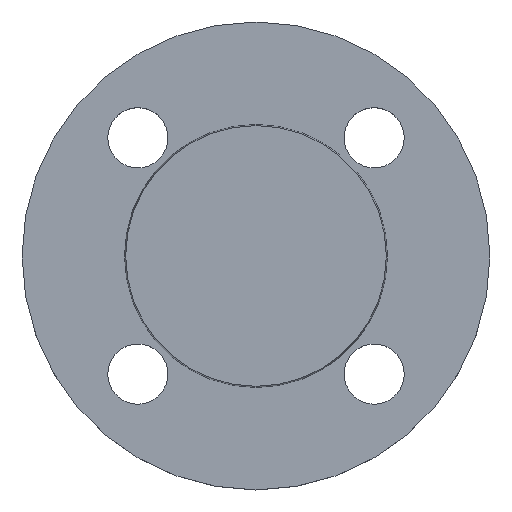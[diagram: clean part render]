
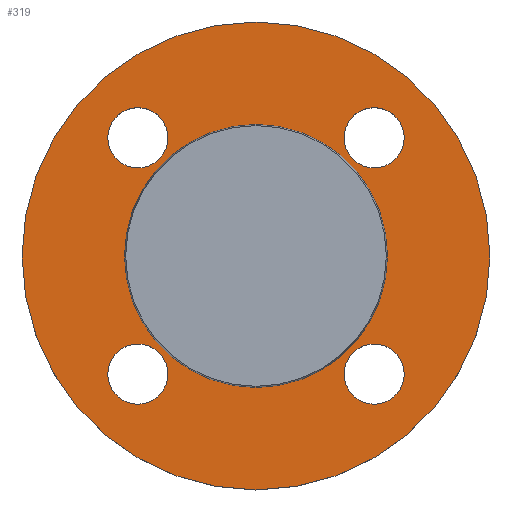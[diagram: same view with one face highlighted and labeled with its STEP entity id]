
A CAD part, top view. The second image highlights one B-rep face of the part: STEP entity #319.
In plain terms, the highlighted planar face has unit normal (0, 0, 1).
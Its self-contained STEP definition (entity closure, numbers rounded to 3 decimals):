
#5 = ORIENTED_EDGE ( 'NONE', *, *, #221, .T. ) ;
#11 = CARTESIAN_POINT ( 'NONE',  ( 39.353, 0., -2. ) ) ;
#17 = FACE_BOUND ( 'NONE', #58, .T. ) ;
#23 = CARTESIAN_POINT ( 'NONE',  ( -35.355, 35.355, -2. ) ) ;
#24 = CARTESIAN_POINT ( 'NONE',  ( 70., 0., -2. ) ) ;
#28 = EDGE_CURVE ( 'NONE', #180, #740, #687, .T. ) ;
#35 = AXIS2_PLACEMENT_3D ( 'NONE', #439, #678, #156 ) ;
#37 = ORIENTED_EDGE ( 'NONE', *, *, #698, .T. ) ;
#42 = CIRCLE ( 'NONE', #407, 9. ) ;
#43 = ORIENTED_EDGE ( 'NONE', *, *, #217, .T. ) ;
#49 = CARTESIAN_POINT ( 'NONE',  ( 0., 0., -2. ) ) ;
#50 = VERTEX_POINT ( 'NONE', #701 ) ;
#51 = AXIS2_PLACEMENT_3D ( 'NONE', #562, #744, #224 ) ;
#56 = EDGE_LOOP ( 'NONE', ( #559, #750 ) ) ;
#58 = EDGE_LOOP ( 'NONE', ( #642, #37 ) ) ;
#62 = AXIS2_PLACEMENT_3D ( 'NONE', #174, #397, #636 ) ;
#65 = CARTESIAN_POINT ( 'NONE',  ( 0., 0., -2. ) ) ;
#66 = CIRCLE ( 'NONE', #493, 70. ) ;
#70 = FACE_BOUND ( 'NONE', #109, .T. ) ;
#78 = DIRECTION ( 'NONE',  ( 0., 0., -1. ) ) ;
#85 = DIRECTION ( 'NONE',  ( 0., 0., -1. ) ) ;
#107 = CARTESIAN_POINT ( 'NONE',  ( -35.355, 35.355, -2. ) ) ;
#109 = EDGE_LOOP ( 'NONE', ( #418, #43 ) ) ;
#112 = EDGE_CURVE ( 'NONE', #635, #335, #66, .T. ) ;
#146 = DIRECTION ( 'NONE',  ( 0., 0., -1. ) ) ;
#155 = CIRCLE ( 'NONE', #567, 9. ) ;
#156 = DIRECTION ( 'NONE',  ( -1., 0., 0. ) ) ;
#157 = CIRCLE ( 'NONE', #262, 9. ) ;
#174 = CARTESIAN_POINT ( 'NONE',  ( 35.355, 35.355, -2. ) ) ;
#180 = VERTEX_POINT ( 'NONE', #645 ) ;
#188 = ORIENTED_EDGE ( 'NONE', *, *, #685, .T. ) ;
#191 = CARTESIAN_POINT ( 'NONE',  ( -35.355, -35.355, -2. ) ) ;
#192 = DIRECTION ( 'NONE',  ( 0., 0., -1. ) ) ;
#197 = DIRECTION ( 'NONE',  ( 0., 0., 1. ) ) ;
#217 = EDGE_CURVE ( 'NONE', #50, #296, #155, .T. ) ;
#220 = DIRECTION ( 'NONE',  ( 1., 0., 0. ) ) ;
#221 = EDGE_CURVE ( 'NONE', #715, #576, #257, .T. ) ;
#224 = DIRECTION ( 'NONE',  ( 1., 0., 0. ) ) ;
#225 = VERTEX_POINT ( 'NONE', #604 ) ;
#226 = CARTESIAN_POINT ( 'NONE',  ( -26.355, 35.355, -2. ) ) ;
#241 = VERTEX_POINT ( 'NONE', #486 ) ;
#244 = CARTESIAN_POINT ( 'NONE',  ( -26.355, -35.355, -2. ) ) ;
#249 = FACE_OUTER_BOUND ( 'NONE', #336, .T. ) ;
#254 = DIRECTION ( 'NONE',  ( 0., 0., -1. ) ) ;
#257 = CIRCLE ( 'NONE', #679, 9. ) ;
#262 = AXIS2_PLACEMENT_3D ( 'NONE', #107, #332, #565 ) ;
#278 = ORIENTED_EDGE ( 'NONE', *, *, #676, .T. ) ;
#279 = DIRECTION ( 'NONE',  ( 0., 0., -1. ) ) ;
#281 = VERTEX_POINT ( 'NONE', #11 ) ;
#295 = DIRECTION ( 'NONE',  ( 0., 0., -1. ) ) ;
#296 = VERTEX_POINT ( 'NONE', #244 ) ;
#298 = FACE_BOUND ( 'NONE', #525, .T. ) ;
#305 = DIRECTION ( 'NONE',  ( 1., 0., 0. ) ) ;
#312 = DIRECTION ( 'NONE',  ( 1., 0., 0. ) ) ;
#317 = EDGE_CURVE ( 'NONE', #519, #281, #739, .T. ) ;
#319 = ADVANCED_FACE ( 'NONE', ( #590, #70, #298, #534, #17, #249 ), #477, .T. ) ;
#331 = CIRCLE ( 'NONE', #437, 9. ) ;
#332 = DIRECTION ( 'NONE',  ( 0., 0., -1. ) ) ;
#335 = VERTEX_POINT ( 'NONE', #24 ) ;
#336 = EDGE_LOOP ( 'NONE', ( #457, #707 ) ) ;
#339 = AXIS2_PLACEMENT_3D ( 'NONE', #49, #279, #510 ) ;
#362 = EDGE_CURVE ( 'NONE', #296, #50, #42, .T. ) ;
#368 = DIRECTION ( 'NONE',  ( 1., 0., 0. ) ) ;
#378 = CIRCLE ( 'NONE', #51, 9. ) ;
#397 = DIRECTION ( 'NONE',  ( 0., 0., -1. ) ) ;
#398 = AXIS2_PLACEMENT_3D ( 'NONE', #713, #192, #415 ) ;
#407 = AXIS2_PLACEMENT_3D ( 'NONE', #605, #85, #312 ) ;
#415 = DIRECTION ( 'NONE',  ( -1., 0., 0. ) ) ;
#418 = ORIENTED_EDGE ( 'NONE', *, *, #362, .T. ) ;
#420 = DIRECTION ( 'NONE',  ( 1., 0., 0. ) ) ;
#425 = CIRCLE ( 'NONE', #513, 9. ) ;
#435 = EDGE_CURVE ( 'NONE', #740, #180, #331, .T. ) ;
#437 = AXIS2_PLACEMENT_3D ( 'NONE', #668, #146, #368 ) ;
#439 = CARTESIAN_POINT ( 'NONE',  ( 0., 0., -2. ) ) ;
#457 = ORIENTED_EDGE ( 'NONE', *, *, #622, .F. ) ;
#460 = ORIENTED_EDGE ( 'NONE', *, *, #657, .T. ) ;
#477 = PLANE ( 'NONE',  #500 ) ;
#481 = DIRECTION ( 'NONE',  ( 1., 0., 0. ) ) ;
#486 = CARTESIAN_POINT ( 'NONE',  ( 44.355, -35.355, -2. ) ) ;
#493 = AXIS2_PLACEMENT_3D ( 'NONE', #65, #295, #531 ) ;
#500 = AXIS2_PLACEMENT_3D ( 'NONE', #718, #197, #420 ) ;
#502 = CARTESIAN_POINT ( 'NONE',  ( 35.355, -35.355, -2. ) ) ;
#510 = DIRECTION ( 'NONE',  ( -1., 0., 0. ) ) ;
#513 = AXIS2_PLACEMENT_3D ( 'NONE', #502, #742, #220 ) ;
#519 = VERTEX_POINT ( 'NONE', #711 ) ;
#525 = EDGE_LOOP ( 'NONE', ( #5, #188 ) ) ;
#531 = DIRECTION ( 'NONE',  ( -1., 0., 0. ) ) ;
#534 = FACE_BOUND ( 'NONE', #56, .T. ) ;
#559 = ORIENTED_EDGE ( 'NONE', *, *, #435, .T. ) ;
#562 = CARTESIAN_POINT ( 'NONE',  ( 35.355, -35.355, -2. ) ) ;
#565 = DIRECTION ( 'NONE',  ( 1., 0., 0. ) ) ;
#566 = EDGE_LOOP ( 'NONE', ( #278, #460 ) ) ;
#567 = AXIS2_PLACEMENT_3D ( 'NONE', #191, #78, #305 ) ;
#568 = CARTESIAN_POINT ( 'NONE',  ( 44.355, 35.355, -2. ) ) ;
#576 = VERTEX_POINT ( 'NONE', #596 ) ;
#590 = FACE_BOUND ( 'NONE', #566, .T. ) ;
#596 = CARTESIAN_POINT ( 'NONE',  ( -44.355, 35.355, -2. ) ) ;
#604 = CARTESIAN_POINT ( 'NONE',  ( 26.355, -35.355, -2. ) ) ;
#605 = CARTESIAN_POINT ( 'NONE',  ( -35.355, -35.355, -2. ) ) ;
#622 = EDGE_CURVE ( 'NONE', #335, #635, #691, .T. ) ;
#635 = VERTEX_POINT ( 'NONE', #682 ) ;
#636 = DIRECTION ( 'NONE',  ( 1., 0., 0. ) ) ;
#642 = ORIENTED_EDGE ( 'NONE', *, *, #317, .T. ) ;
#645 = CARTESIAN_POINT ( 'NONE',  ( 26.355, 35.355, -2. ) ) ;
#657 = EDGE_CURVE ( 'NONE', #225, #241, #425, .T. ) ;
#668 = CARTESIAN_POINT ( 'NONE',  ( 35.355, 35.355, -2. ) ) ;
#676 = EDGE_CURVE ( 'NONE', #241, #225, #378, .T. ) ;
#678 = DIRECTION ( 'NONE',  ( 0., 0., -1. ) ) ;
#679 = AXIS2_PLACEMENT_3D ( 'NONE', #23, #254, #481 ) ;
#681 = CIRCLE ( 'NONE', #339, 39.353 ) ;
#682 = CARTESIAN_POINT ( 'NONE',  ( -70., 0., -2. ) ) ;
#685 = EDGE_CURVE ( 'NONE', #576, #715, #157, .T. ) ;
#687 = CIRCLE ( 'NONE', #62, 9. ) ;
#691 = CIRCLE ( 'NONE', #35, 70. ) ;
#698 = EDGE_CURVE ( 'NONE', #281, #519, #681, .T. ) ;
#701 = CARTESIAN_POINT ( 'NONE',  ( -44.355, -35.355, -2. ) ) ;
#707 = ORIENTED_EDGE ( 'NONE', *, *, #112, .F. ) ;
#711 = CARTESIAN_POINT ( 'NONE',  ( -39.353, 0., -2. ) ) ;
#713 = CARTESIAN_POINT ( 'NONE',  ( 0., 0., -2. ) ) ;
#715 = VERTEX_POINT ( 'NONE', #226 ) ;
#718 = CARTESIAN_POINT ( 'NONE',  ( 39.353, 0., -2. ) ) ;
#739 = CIRCLE ( 'NONE', #398, 39.353 ) ;
#740 = VERTEX_POINT ( 'NONE', #568 ) ;
#742 = DIRECTION ( 'NONE',  ( 0., 0., -1. ) ) ;
#744 = DIRECTION ( 'NONE',  ( 0., 0., -1. ) ) ;
#750 = ORIENTED_EDGE ( 'NONE', *, *, #28, .T. ) ;
